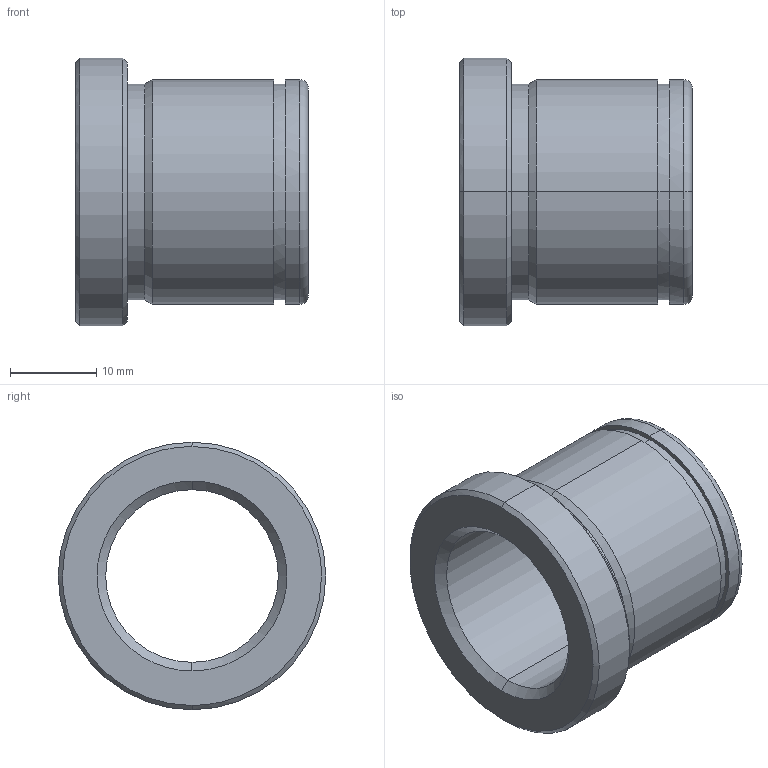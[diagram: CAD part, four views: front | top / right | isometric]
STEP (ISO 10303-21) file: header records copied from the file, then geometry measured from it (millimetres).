
FILE_DESCRIPTION(('CATIA V5 STEP Exchange'),'2;1');
FILE_NAME('C:\Users\Utente\Desktop\IO LAVORO\3D X SITO CF\X SITO\PLASTICA\553\553-20X27.stp','2021-05-23T18:16:51+00:00',('none'),('none'),'CATIA Version 5 Release 20 GA (IN-10)','CATIA V5 STEP AP203','none');
FILE_SCHEMA(('CONFIG_CONTROL_DESIGN'));
Length unit declared in the file: millimetre
Products named in the file (1): 553-20X27
Bounding box: 27 x 31 x 31 mm (x, y, z)
Volume: 6941 mm3; surface area: 4828.3 mm2
Topology: 1 solids, 1 shells, 29 faces, 92 edges, 68 vertices
Faces by surface type: cylinder 12, cone 8, plane 5, torus 4
Entity records: 1222 total; most frequent: CARTESIAN_POINT 368, ORIENTED_EDGE 184, DIRECTION 136, EDGE_CURVE 92, AXIS2_PLACEMENT_3D 88, VERTEX_POINT 68, CIRCLE 58, EDGE_LOOP 34
